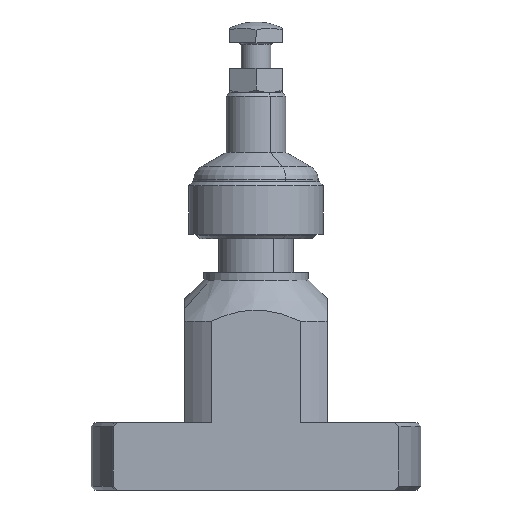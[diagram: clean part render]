
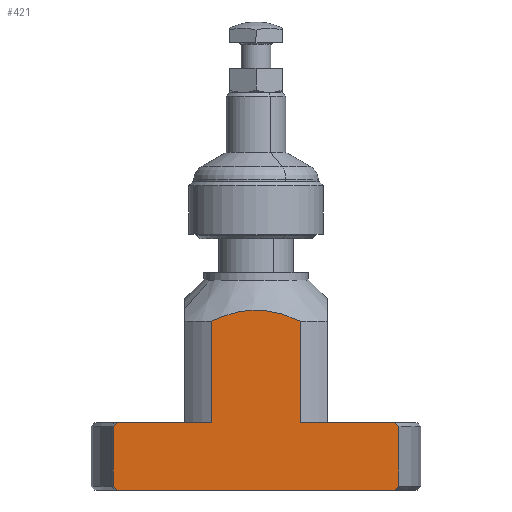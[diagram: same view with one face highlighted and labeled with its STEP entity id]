
A CAD part, front view. The second image highlights one B-rep face of the part: STEP entity #421.
In plain terms, the highlighted planar face has unit normal (0, -1, 0).
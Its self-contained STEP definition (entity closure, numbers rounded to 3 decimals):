
#306=AXIS2_PLACEMENT_3D('Plane Axis2P3D',#303,#304,#305) ;
#275=CARTESIAN_POINT('Vertex',(-18.473,-11.,9.)) ;
#287=CARTESIAN_POINT('Vertex',(-19.053,-11.,8.5)) ;
#291=CARTESIAN_POINT('Control Point',(-18.473,-11.,9.)) ;
#292=CARTESIAN_POINT('Control Point',(-18.666,-11.,8.834)) ;
#293=CARTESIAN_POINT('Control Point',(-18.86,-11.,8.667)) ;
#294=CARTESIAN_POINT('Control Point',(-19.053,-11.,8.5)) ;
#303=CARTESIAN_POINT('Axis2P3D Location',(-29.569,-11.,0.)) ;
#308=CARTESIAN_POINT('Line Origine',(0.,-11.,0.)) ;
#312=CARTESIAN_POINT('Vertex',(18.473,-11.,0.)) ;
#314=CARTESIAN_POINT('Vertex',(-18.473,-11.,0.)) ;
#318=CARTESIAN_POINT('Control Point',(18.473,-11.,0.)) ;
#319=CARTESIAN_POINT('Control Point',(18.589,-11.,0.1)) ;
#320=CARTESIAN_POINT('Control Point',(18.705,-11.,0.2)) ;
#321=CARTESIAN_POINT('Control Point',(18.821,-11.,0.3)) ;
#322=CARTESIAN_POINT('Control Point',(18.937,-11.,0.4)) ;
#323=CARTESIAN_POINT('Control Point',(19.053,-11.,0.5)) ;
#324=CARTESIAN_POINT('Vertex',(19.053,-11.,0.5)) ;
#327=CARTESIAN_POINT('Line Origine',(19.053,-11.,4.5)) ;
#331=CARTESIAN_POINT('Vertex',(19.053,-11.,8.5)) ;
#335=CARTESIAN_POINT('Control Point',(18.473,-11.,9.)) ;
#336=CARTESIAN_POINT('Control Point',(18.589,-11.,8.9)) ;
#337=CARTESIAN_POINT('Control Point',(18.705,-11.,8.8)) ;
#338=CARTESIAN_POINT('Control Point',(18.821,-11.,8.7)) ;
#339=CARTESIAN_POINT('Control Point',(18.937,-11.,8.6)) ;
#340=CARTESIAN_POINT('Control Point',(19.053,-11.,8.5)) ;
#341=CARTESIAN_POINT('Vertex',(18.473,-11.,9.)) ;
#344=CARTESIAN_POINT('Line Origine',(12.205,-11.,9.)) ;
#348=CARTESIAN_POINT('Vertex',(5.937,-11.,9.)) ;
#351=CARTESIAN_POINT('Line Origine',(5.937,-11.,15.75)) ;
#355=CARTESIAN_POINT('Vertex',(5.937,-11.,22.5)) ;
#359=CARTESIAN_POINT('Control Point',(5.937,-11.,22.5)) ;
#360=CARTESIAN_POINT('Control Point',(5.525,-11.,22.696)) ;
#361=CARTESIAN_POINT('Control Point',(5.108,-11.,22.881)) ;
#362=CARTESIAN_POINT('Control Point',(4.686,-11.,23.053)) ;
#363=CARTESIAN_POINT('Control Point',(3.742,-11.,23.403)) ;
#364=CARTESIAN_POINT('Control Point',(2.776,-11.,23.673)) ;
#365=CARTESIAN_POINT('Control Point',(2.241,-11.,23.793)) ;
#366=CARTESIAN_POINT('Control Point',(1.123,-11.,23.978)) ;
#367=CARTESIAN_POINT('Control Point',(-0.006,-11.,24.024)) ;
#368=CARTESIAN_POINT('Control Point',(-0.591,-11.,24.007)) ;
#369=CARTESIAN_POINT('Control Point',(-1.686,-11.,23.904)) ;
#370=CARTESIAN_POINT('Control Point',(-2.764,-11.,23.674)) ;
#371=CARTESIAN_POINT('Control Point',(-3.263,-11.,23.541)) ;
#372=CARTESIAN_POINT('Control Point',(-4.107,-11.,23.275)) ;
#373=CARTESIAN_POINT('Control Point',(-4.931,-11.,22.951)) ;
#374=CARTESIAN_POINT('Control Point',(-5.27,-11.,22.808)) ;
#375=CARTESIAN_POINT('Control Point',(-5.605,-11.,22.658)) ;
#376=CARTESIAN_POINT('Control Point',(-5.937,-11.,22.5)) ;
#377=CARTESIAN_POINT('Vertex',(-5.937,-11.,22.5)) ;
#380=CARTESIAN_POINT('Line Origine',(-5.937,-11.,15.75)) ;
#384=CARTESIAN_POINT('Vertex',(-5.937,-11.,9.)) ;
#387=CARTESIAN_POINT('Line Origine',(-12.205,-11.,9.)) ;
#392=CARTESIAN_POINT('Line Origine',(-19.053,-11.,4.5)) ;
#396=CARTESIAN_POINT('Vertex',(-19.053,-11.,0.5)) ;
#400=CARTESIAN_POINT('Control Point',(-18.473,-11.,0.)) ;
#401=CARTESIAN_POINT('Control Point',(-18.589,-11.,0.1)) ;
#402=CARTESIAN_POINT('Control Point',(-18.705,-11.,0.2)) ;
#403=CARTESIAN_POINT('Control Point',(-18.821,-11.,0.3)) ;
#404=CARTESIAN_POINT('Control Point',(-18.937,-11.,0.4)) ;
#405=CARTESIAN_POINT('Control Point',(-19.053,-11.,0.5)) ;
#304=DIRECTION('Axis2P3D Direction',(0.,-1.,0.)) ;
#305=DIRECTION('Axis2P3D XDirection',(1.,0.,0.)) ;
#309=DIRECTION('Vector Direction',(1.,0.,0.)) ;
#328=DIRECTION('Vector Direction',(0.,0.,1.)) ;
#345=DIRECTION('Vector Direction',(1.,0.,0.)) ;
#352=DIRECTION('Vector Direction',(0.,0.,1.)) ;
#381=DIRECTION('Vector Direction',(0.,0.,1.)) ;
#388=DIRECTION('Vector Direction',(1.,0.,0.)) ;
#393=DIRECTION('Vector Direction',(0.,0.,1.)) ;
#310=VECTOR('Line Direction',#309,1.) ;
#329=VECTOR('Line Direction',#328,1.) ;
#346=VECTOR('Line Direction',#345,1.) ;
#353=VECTOR('Line Direction',#352,1.) ;
#382=VECTOR('Line Direction',#381,1.) ;
#389=VECTOR('Line Direction',#388,1.) ;
#394=VECTOR('Line Direction',#393,1.) ;
#408=ORIENTED_EDGE('',*,*,#316,.F.) ;
#409=ORIENTED_EDGE('',*,*,#326,.T.) ;
#410=ORIENTED_EDGE('',*,*,#333,.T.) ;
#411=ORIENTED_EDGE('',*,*,#343,.F.) ;
#412=ORIENTED_EDGE('',*,*,#350,.F.) ;
#413=ORIENTED_EDGE('',*,*,#357,.T.) ;
#414=ORIENTED_EDGE('',*,*,#379,.T.) ;
#415=ORIENTED_EDGE('',*,*,#386,.F.) ;
#416=ORIENTED_EDGE('',*,*,#391,.F.) ;
#417=ORIENTED_EDGE('',*,*,#295,.T.) ;
#418=ORIENTED_EDGE('',*,*,#398,.F.) ;
#419=ORIENTED_EDGE('',*,*,#406,.F.) ;
#421=ADVANCED_FACE('PartBody',(#420),#307,.T.) ;
#290=B_SPLINE_CURVE_WITH_KNOTS('',3,(#291,#292,#293,#294),.UNSPECIFIED.,.F.,.U.,(4,4),(0.,1.083),.UNSPECIFIED.) ;
#317=B_SPLINE_CURVE_WITH_KNOTS('',5,(#318,#319,#320,#321,#322,#323),.UNSPECIFIED.,.F.,.U.,(6,6),(0.,1.083),.UNSPECIFIED.) ;
#334=B_SPLINE_CURVE_WITH_KNOTS('',5,(#335,#336,#337,#338,#339,#340),.UNSPECIFIED.,.F.,.U.,(6,6),(0.,1.083),.UNSPECIFIED.) ;
#358=B_SPLINE_CURVE_WITH_KNOTS('',5,(#359,#360,#361,#362,#363,#364,#365,#366,#367,#368,#369,#370,#371,#372,#373,#374,#375,#376),.UNSPECIFIED.,.F.,.U.,(6,3,3,3,3,6),(0.,3.019,6.658,10.56,13.986,16.42),.UNSPECIFIED.) ;
#399=B_SPLINE_CURVE_WITH_KNOTS('',5,(#400,#401,#402,#403,#404,#405),.UNSPECIFIED.,.F.,.U.,(6,6),(0.,1.083),.UNSPECIFIED.) ;
#295=EDGE_CURVE('',#276,#288,#290,.T.) ;
#316=EDGE_CURVE('',#313,#315,#311,.F.) ;
#326=EDGE_CURVE('',#313,#325,#317,.T.) ;
#333=EDGE_CURVE('',#325,#332,#330,.T.) ;
#343=EDGE_CURVE('',#342,#332,#334,.T.) ;
#350=EDGE_CURVE('',#349,#342,#347,.T.) ;
#357=EDGE_CURVE('',#349,#356,#354,.T.) ;
#379=EDGE_CURVE('',#356,#378,#358,.T.) ;
#386=EDGE_CURVE('',#385,#378,#383,.T.) ;
#391=EDGE_CURVE('',#276,#385,#390,.T.) ;
#398=EDGE_CURVE('',#397,#288,#395,.T.) ;
#406=EDGE_CURVE('',#315,#397,#399,.T.) ;
#407=EDGE_LOOP('',(#408,#409,#410,#411,#412,#413,#414,#415,#416,#417,#418,#419)) ;
#420=FACE_OUTER_BOUND('',#407,.T.) ;
#311=LINE('Line',#308,#310) ;
#330=LINE('Line',#327,#329) ;
#347=LINE('Line',#344,#346) ;
#354=LINE('Line',#351,#353) ;
#383=LINE('Line',#380,#382) ;
#390=LINE('Line',#387,#389) ;
#395=LINE('Line',#392,#394) ;
#307=PLANE('Plane',#306) ;
#276=VERTEX_POINT('',#275) ;
#288=VERTEX_POINT('',#287) ;
#313=VERTEX_POINT('',#312) ;
#315=VERTEX_POINT('',#314) ;
#325=VERTEX_POINT('',#324) ;
#332=VERTEX_POINT('',#331) ;
#342=VERTEX_POINT('',#341) ;
#349=VERTEX_POINT('',#348) ;
#356=VERTEX_POINT('',#355) ;
#378=VERTEX_POINT('',#377) ;
#385=VERTEX_POINT('',#384) ;
#397=VERTEX_POINT('',#396) ;
